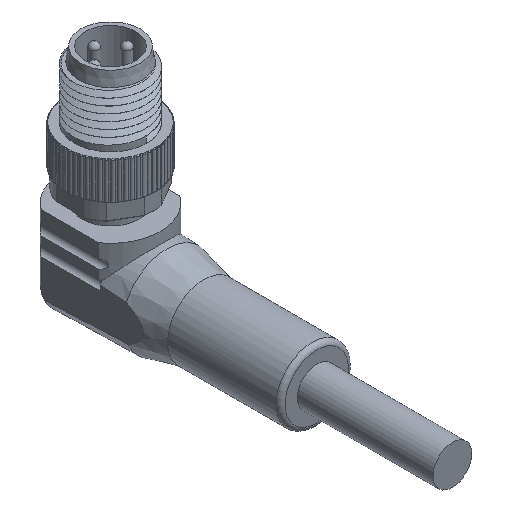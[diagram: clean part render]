
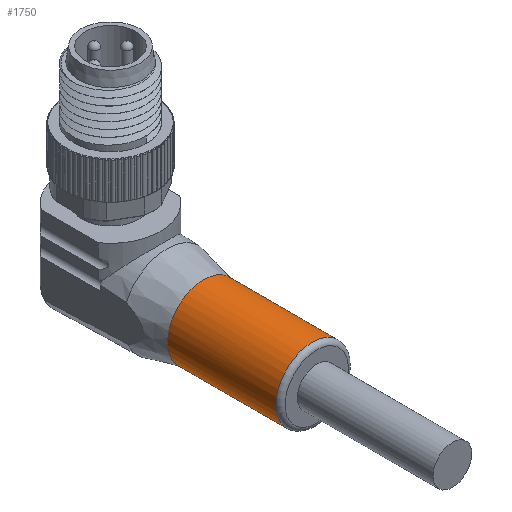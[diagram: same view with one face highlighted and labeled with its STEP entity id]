
A CAD part, isometric view. The second image highlights one B-rep face of the part: STEP entity #1750.
In plain terms, the highlighted cylindrical face has radius 4 mm (diameter 8 mm), a full revolution.
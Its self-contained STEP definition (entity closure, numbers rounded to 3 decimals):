
#143=CYLINDRICAL_SURFACE('',#6108,4.);
#1750=ADVANCED_FACE('',(#2234,#2235),#143,.T.);
#2234=FACE_BOUND('',#2306,.T.);
#2235=FACE_BOUND('',#2307,.T.);
#2306=EDGE_LOOP('',(#2873));
#2307=EDGE_LOOP('',(#2874));
#2873=ORIENTED_EDGE('',*,*,#5030,.T.);
#2874=ORIENTED_EDGE('',*,*,#4982,.T.);
#4488=VERTEX_POINT('',#8740);
#4519=VERTEX_POINT('',#9089);
#4982=EDGE_CURVE('',#4488,#4488,#5773,.T.);
#5030=EDGE_CURVE('',#4519,#4519,#5783,.T.);
#5773=CIRCLE('',#6078,4.);
#5783=CIRCLE('',#6107,4.);
#6078=AXIS2_PLACEMENT_3D('',#8739,#6813,#6814);
#6107=AXIS2_PLACEMENT_3D('',#9088,#6892,#6893);
#6108=AXIS2_PLACEMENT_3D('',#9090,#6894,#6895);
#6813=DIRECTION('',(0.,-1.,0.));
#6814=DIRECTION('',(0.,0.,1.));
#6892=DIRECTION('',(0.,1.,0.));
#6893=DIRECTION('',(0.,0.,-1.));
#6894=DIRECTION('',(0.,1.,0.));
#6895=DIRECTION('',(0.,0.,-1.));
#8739=CARTESIAN_POINT('',(0.,-10.31,-1.9));
#8740=CARTESIAN_POINT('',(0.,-10.31,2.1));
#9088=CARTESIAN_POINT('',(0.,-22.3,-1.9));
#9089=CARTESIAN_POINT('',(0.,-22.3,-5.9));
#9090=CARTESIAN_POINT('',(0.,-22.8,-1.9));
